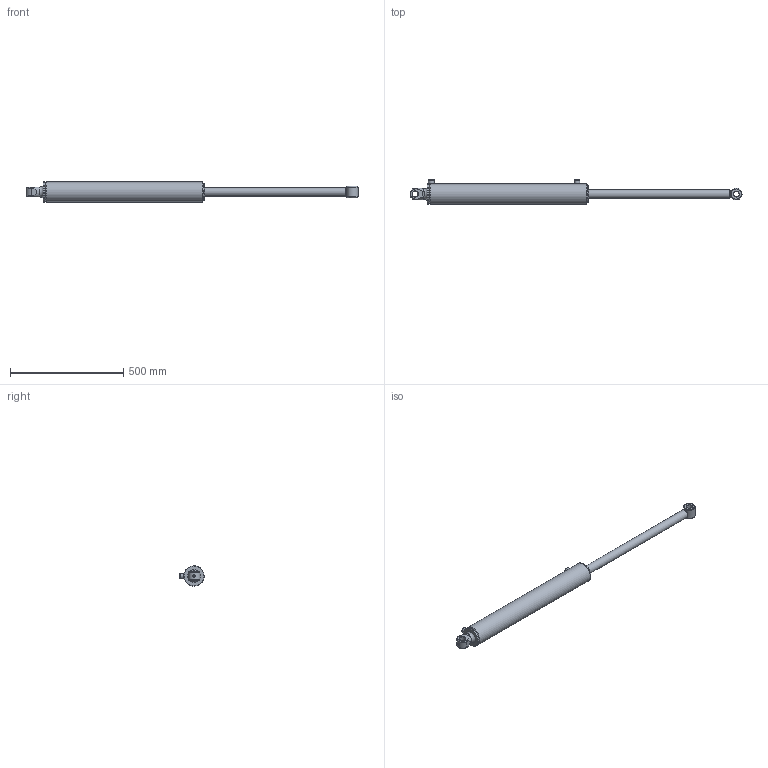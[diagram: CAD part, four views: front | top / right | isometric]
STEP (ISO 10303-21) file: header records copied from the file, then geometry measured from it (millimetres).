
FILE_DESCRIPTION(/* description */ ('Alibre Inc.'),/* implementation_level */ '2;1');
FILE_NAME(/* name */ 'export0',/* time_stamp */ '2016-08-16T10:02:22+12:00',/* author */ (''),/* organization */ (''),/* preprocessor_version */ 'ST-DEVELOPER v14',/* originating_system */ 'Alibre',/* authorisation */ '');
FILE_SCHEMA (('AUTOMOTIVE_DESIGN'));
Length unit declared in the file: centimetre
Bounding box: 1463.13 x 106.9 x 88.9 mm (x, y, z)
Volume: 2460398.6 mm3; surface area: 562850.2 mm2
Topology: 12 solids, 12 shells, 157 faces, 332 edges, 209 vertices
Faces by surface type: cylinder 61, plane 57, cone 23, torus 13, sphere 2, bspline 1
Full cylindrical faces by diameter (mm): 7 x1, 8.3 x2, 8.8 x1, 9.525 x2, 15.25 x2, 23 x1, 23.622 x1, 25 x2, 25.4 x2, 25.451 x1, 38.1 x2, 38.18 x2, 44.45 x1, 46.9 x2, 47.62 x2, 50.8 x1, 60.33 x1, 69.2 x1, 70.36 x1, 71.6 x2, 72.57 x2, 72.87 x1, 74.83 x2, 76.09 x2, 76.1 x1, 76.2 x2, 79.4 x1, 88.9 x3
Entity records: 4365 total; most frequent: CARTESIAN_POINT 1210, DIRECTION 599, ORIENTED_EDGE 456, AXIS2_PLACEMENT_3D 310, FACE_BOUND 271, EDGE_LOOP 269, EDGE_CURVE 228, VERTEX_POINT 191
